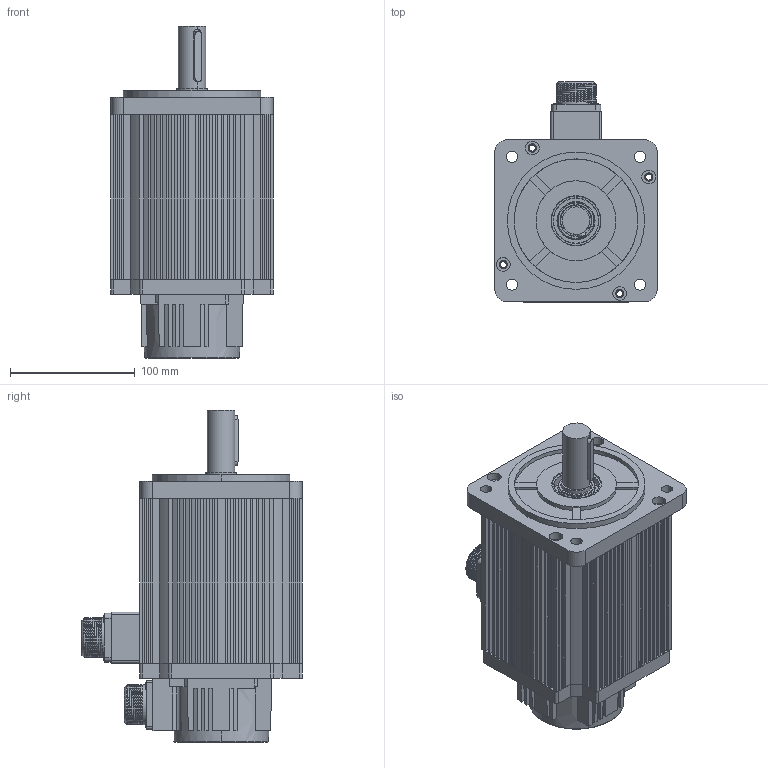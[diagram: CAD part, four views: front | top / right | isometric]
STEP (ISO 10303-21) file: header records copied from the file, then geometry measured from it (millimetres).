
FILE_DESCRIPTION (( 'STEP AP203' ), '1' );
FILE_NAME ('130ST-M10025.STEP', '2019-06-26T05:56:29', ( 'hzmg' ), ( '' ), 'SwSTEP 2.0', 'SolidWorks 2016', '' );
FILE_SCHEMA (( 'CONFIG_CONTROL_DESIGN' ));
Length unit declared in the file: millimetre
Products named in the file (11): 粣創6305ㄗ130炵蹈ㄘ; 130綴綴傷裔ㄗ惕掅ㄘ; 130机壳7.7nm_4NM（89mm）; す瑩1; 130晤鎢ん脣芛; 130ST-M10025; 130瑤脣; 130綴欶; 130ヶ傷裔; 130蚐猾; 130转轴（15NM-1500RPM 手动抱闸）
Assembly tree (10 placements, depth 2):
  130ST-M10025
    130机壳7.7nm_4NM（89mm）
    130晤鎢ん脣芛
    130瑤脣
    130綴欶
    130ヶ傷裔
    130蚐猾
    130转轴（15NM-1500RPM 手动抱闸）
    粣創6305ㄗ130炵蹈ㄘ
    130綴綴傷裔ㄗ惕掅ㄘ
    す瑩1
Bounding box: 130 x 176.5 x 266 mm (x, y, z)
Volume: 962629.2 mm3; surface area: 415661.1 mm2
Topology: 11 solids, 11 shells, 1146 faces, 3395 edges, 2221 vertices
Faces by surface type: plane 603, cylinder 395, sphere 70, cone 30, bspline 30, torus 18
Entity records: 45498 total; most frequent: CARTESIAN_POINT 14726, ORIENTED_EDGE 6330, DIRECTION 6010, EDGE_CURVE 3165, VERTEX_POINT 2081, AXIS2_PLACEMENT_3D 2061, VECTOR 1888, LINE 1888
